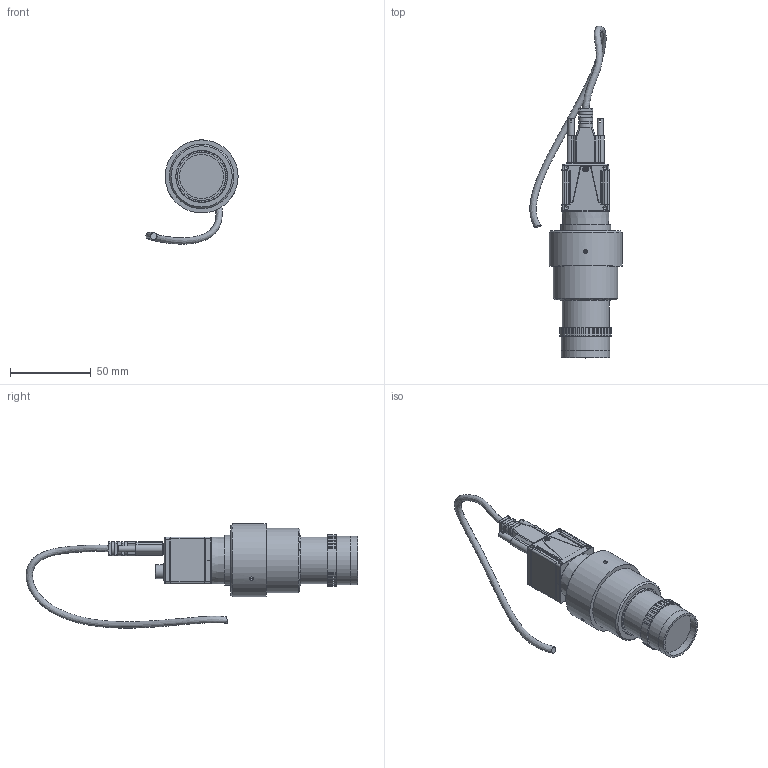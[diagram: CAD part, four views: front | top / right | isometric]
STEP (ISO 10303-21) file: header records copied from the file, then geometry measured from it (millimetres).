
FILE_DESCRIPTION(/* description */ ('OptiVID'),/* implementation_level */ '2;1');
FILE_NAME(/* name */ 'S:\Bureau-Technique\Vidéo\MA 730-007-105.stp',/* time_stamp */ '2018-04-10T10:48:57+02:00',/* author */ ('ms'),/* organization */ ('Marcel Aubert'),/* preprocessor_version */ 'ST-DEVELOPER v17',/* originating_system */ 'Autodesk Inventor 2018',/* authorisation */ '');
FILE_SCHEMA (('AUTOMOTIVE_DESIGN { 1 0 10303 214 3 1 1 }'));
Products named in the file (13): MA 730-007-105; CAM-120-284; MA 726-007-105; MA 726-007-000; MA 726-007-000-100; MA 726-006-000-101; 88-057-11; ISO 4026 - M3 x 6; ISO 4026 - M2 x 3; 66-049; CAB-156-030; CNT-052-03; CAB-083(b)
Assembly tree (15 placements, depth 4):
  MA 730-007-105
    CAM-120-284
    MA 726-007-105
      MA 726-007-000
        MA 726-007-000-100
        MA 726-006-000-101
      88-057-11
      ISO 4026 - M3 x 6  x3
      ISO 4026 - M2 x 3  x2
      66-049
    CAB-156-030
      CNT-052-03
      CAB-083(b)
Bounding box: 57.25 x 205.88 x 64.62 mm (x, y, z)
Volume: 105211.1 mm3; surface area: 44465.7 mm2
Topology: 19 solids, 19 shells, 1211 faces, 3311 edges, 2195 vertices
Faces by surface type: plane 782, cylinder 309, cone 56, bspline 35, torus 27, sphere 2
Full cylindrical faces by diameter (mm): 0.4 x8, 1.567 x2, 1.6 x2, 2 x4, 2.459 x3, 2.5 x4, 3 x5, 3.2 x1, 3.9 x2, 6.8 x1, 8.5 x1, 8.6 x3, 10 x1, 10.6 x1, 19 x1, 22.5 x1, 23.5 x1, 24.4 x1, 24.5 x1, 24.8 x1, 25.4 x2, 26 x1, 27.3 x1, 29 x3, 30 x3, 31 x3, 32.1 x1, 40 x1, 45.3 x1
Entity records: 52038 total; most frequent: CARTESIAN_POINT 20942, ORIENTED_EDGE 6420, DIRECTION 6286, EDGE_CURVE 3210, LINE 2226, VECTOR 2226, VERTEX_POINT 2135, AXIS2_PLACEMENT_3D 2030
